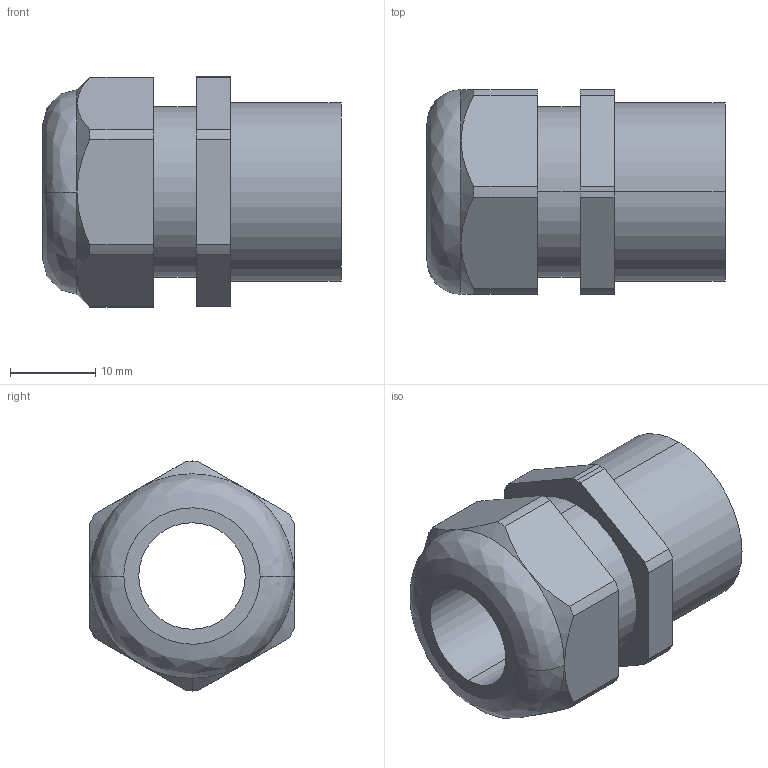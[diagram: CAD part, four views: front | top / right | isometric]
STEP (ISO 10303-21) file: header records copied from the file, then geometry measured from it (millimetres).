
FILE_DESCRIPTION (( 'STEP AP203' ), '1' );
FILE_NAME ('CableGland-1_2NPT.step', '2018-03-21T18:28:40', ( '' ), ( '' ), 'SwSTEP 2.0', 'SolidWorks 2015', '' );
FILE_SCHEMA (( 'CONFIG_CONTROL_DESIGN' ));
Length unit declared in the file: millimetre
Products named in the file (2): CableGland-1_2NPT
Bounding box: 35 x 24 x 27 mm (x, y, z)
Volume: 9773.7 mm3; surface area: 4860.2 mm2
Topology: 1 solids, 1 shells, 46 faces, 115 edges, 74 vertices
Faces by surface type: cylinder 20, plane 17, cone 7, bspline 2
Entity records: 1798 total; most frequent: CARTESIAN_POINT 530, DIRECTION 241, ORIENTED_EDGE 230, EDGE_CURVE 115, AXIS2_PLACEMENT_3D 95, VERTEX_POINT 74, LINE 51, VECTOR 51
